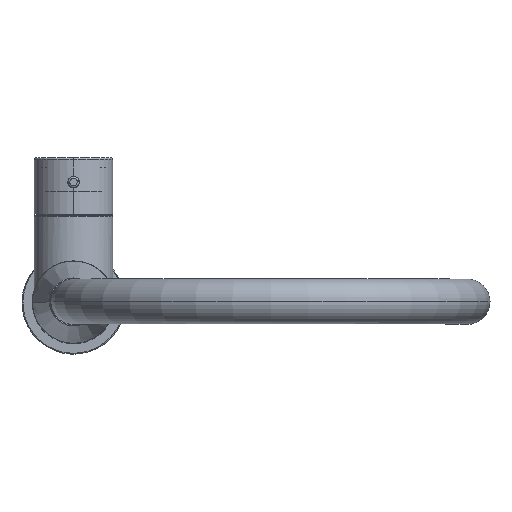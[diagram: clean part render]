
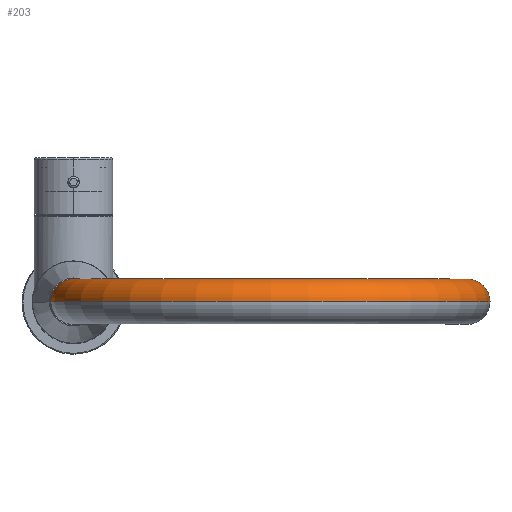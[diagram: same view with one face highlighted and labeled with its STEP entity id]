
A CAD part, top view. The second image highlights one B-rep face of the part: STEP entity #203.
In plain terms, the highlighted toroidal (fillet/blend) face has major radius 105 mm and minor radius 12 mm.
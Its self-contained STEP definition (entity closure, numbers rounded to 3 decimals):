
#95 = CARTESIAN_POINT ( 'NONE',  ( 198., 0., 148. ) ) ;
#203 = ADVANCED_FACE ( 'NONE', ( #4240 ), #5706, .T. ) ;
#232 = CIRCLE ( 'NONE', #2586, 93. ) ;
#382 = DIRECTION ( 'NONE',  ( 0., 0., -1. ) ) ;
#2059 = CARTESIAN_POINT ( 'NONE',  ( 210., 0., 148. ) ) ;
#2376 = EDGE_CURVE ( 'NONE', #16392, #16677, #23183, .T. ) ;
#2586 = AXIS2_PLACEMENT_3D ( 'NONE', #22921, #18986, #22682 ) ;
#2619 = CARTESIAN_POINT ( 'NONE',  ( 222., 0., 148. ) ) ;
#3881 = VERTEX_POINT ( 'NONE', #21184 ) ;
#4129 = DIRECTION ( 'NONE',  ( 1., 0., 0. ) ) ;
#4240 = FACE_OUTER_BOUND ( 'NONE', #8780, .T. ) ;
#4638 = CARTESIAN_POINT ( 'NONE',  ( 105., 0., 148. ) ) ;
#5706 = TOROIDAL_SURFACE ( 'NONE', #22093, 105., 12. ) ;
#6016 = DIRECTION ( 'NONE',  ( 1., 0., 0. ) ) ;
#6107 = DIRECTION ( 'NONE',  ( -1., 0., 0. ) ) ;
#8780 = EDGE_LOOP ( 'NONE', ( #8894, #9029, #12067, #21676 ) ) ;
#8894 = ORIENTED_EDGE ( 'NONE', *, *, #16748, .F. ) ;
#9029 = ORIENTED_EDGE ( 'NONE', *, *, #2376, .F. ) ;
#9467 = CIRCLE ( 'NONE', #22038, 12. ) ;
#9843 = EDGE_CURVE ( 'NONE', #16392, #11565, #232, .T. ) ;
#11565 = VERTEX_POINT ( 'NONE', #23300 ) ;
#11658 = AXIS2_PLACEMENT_3D ( 'NONE', #4638, #12021, #19313 ) ;
#12021 = DIRECTION ( 'NONE',  ( 0., -1., 0. ) ) ;
#12067 = ORIENTED_EDGE ( 'NONE', *, *, #9843, .T. ) ;
#12895 = AXIS2_PLACEMENT_3D ( 'NONE', #2059, #382, #6107 ) ;
#16392 = VERTEX_POINT ( 'NONE', #95 ) ;
#16670 = DIRECTION ( 'NONE',  ( 0., -1., 0. ) ) ;
#16677 = VERTEX_POINT ( 'NONE', #2619 ) ;
#16748 = EDGE_CURVE ( 'NONE', #16677, #3881, #17023, .T. ) ;
#17023 = CIRCLE ( 'NONE', #11658, 117. ) ;
#17025 = CARTESIAN_POINT ( 'NONE',  ( 105., 0., 148. ) ) ;
#18903 = CARTESIAN_POINT ( 'NONE',  ( 0., 0., 148. ) ) ;
#18958 = EDGE_CURVE ( 'NONE', #11565, #3881, #9467, .T. ) ;
#18986 = DIRECTION ( 'NONE',  ( 0., -1., 0. ) ) ;
#19313 = DIRECTION ( 'NONE',  ( 1., 0., 0. ) ) ;
#21184 = CARTESIAN_POINT ( 'NONE',  ( -12., 0., 148. ) ) ;
#21676 = ORIENTED_EDGE ( 'NONE', *, *, #18958, .T. ) ;
#22038 = AXIS2_PLACEMENT_3D ( 'NONE', #18903, #22603, #6016 ) ;
#22093 = AXIS2_PLACEMENT_3D ( 'NONE', #17025, #16670, #4129 ) ;
#22603 = DIRECTION ( 'NONE',  ( 0., 0., 1. ) ) ;
#22682 = DIRECTION ( 'NONE',  ( 1., 0., 0. ) ) ;
#22921 = CARTESIAN_POINT ( 'NONE',  ( 105., 0., 148. ) ) ;
#23183 = CIRCLE ( 'NONE', #12895, 12. ) ;
#23300 = CARTESIAN_POINT ( 'NONE',  ( 12., 0., 148. ) ) ;
